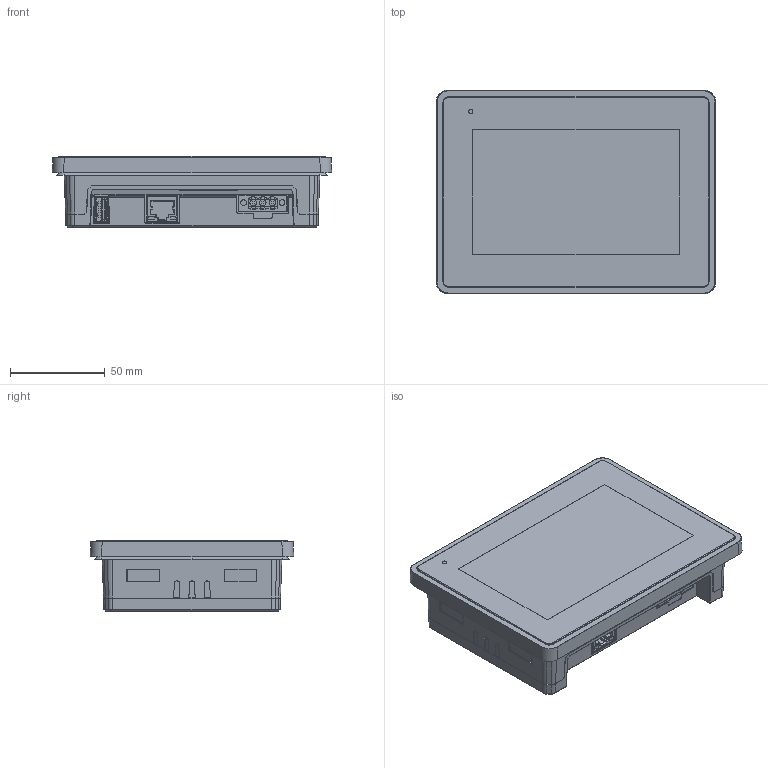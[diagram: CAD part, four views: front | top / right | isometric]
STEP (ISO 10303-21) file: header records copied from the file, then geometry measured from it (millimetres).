
FILE_DESCRIPTION (( 'STEP AP214' ), '1' );
FILE_NAME ('eX205 Web.STEP', '2024-02-16T08:11:10', ( '' ), ( '' ), 'SwSTEP 2.0', 'SolidWorks 2023', '' );
FILE_SCHEMA (( 'AUTOMOTIVE_DESIGN' ));
Length unit declared in the file: millimetre
Products named in the file (1): eX205 Web
Bounding box: 147.36 x 107.36 x 37.85 mm (x, y, z)
Volume: 465544 mm3; surface area: 64690.4 mm2
Topology: 1 solids, 12 shells, 2441 faces, 6373 edges, 3992 vertices
Faces by surface type: plane 1282, cylinder 506, bspline 314, cone 164, torus 135, sphere 40
Entity records: 81494 total; most frequent: CARTESIAN_POINT 24033, ORIENTED_EDGE 12680, DIRECTION 10959, EDGE_CURVE 6340, VERTEX_POINT 3992, LINE 3949, VECTOR 3949, AXIS2_PLACEMENT_3D 3505
